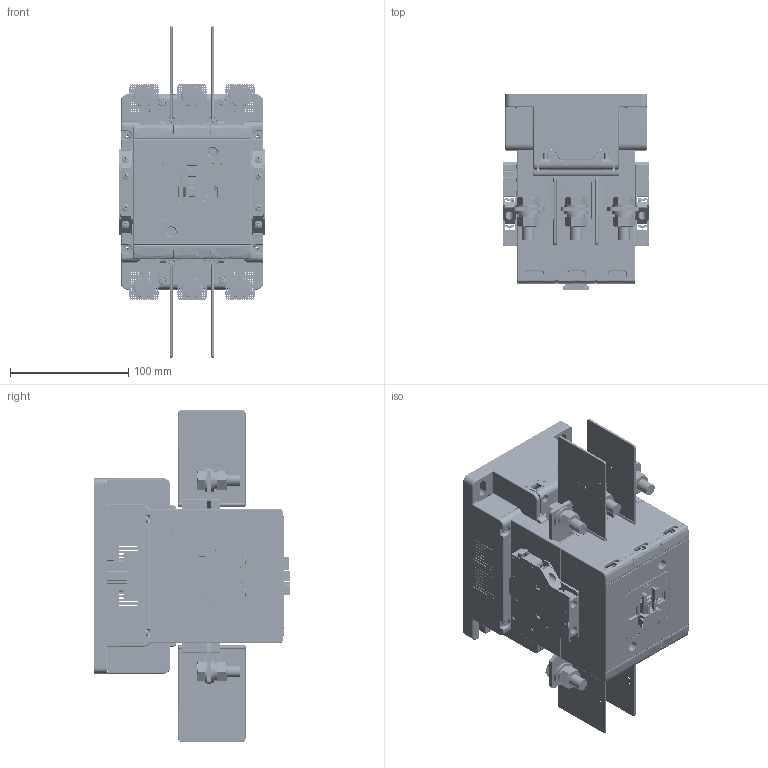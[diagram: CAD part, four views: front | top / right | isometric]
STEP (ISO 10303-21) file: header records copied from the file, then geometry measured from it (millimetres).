
FILE_DESCRIPTION((''),'2;1');
FILE_NAME('2TZD_400_6025_SW0003','2022-04-12T',('wangchen1'),(''),'PRO/ENGINEER BY PARAMETRIC TECHNOLOGY CORPORATION, 2017170','PRO/ENGINEER BY PARAMETRIC TECHNOLOGY CORPORATION, 2017170','');
FILE_SCHEMA(('CONFIG_CONTROL_DESIGN'));
Products named in the file (1): 2TZD_400_6025_SW0003
Bounding box: 124.4 x 166.2 x 281 mm (x, y, z)
Surface area: 511086 mm2 (no closed solid volume)
Topology: 0 solids, 425 shells, 4546 faces, 32176 edges, 27706 vertices
Faces by surface type: plane 3416, cylinder 769, cone 139, torus 121, sphere 56, bspline 39, extrusion 6
Entity records: 331532 total; most frequent: CARTESIAN_POINT 81876, DIRECTION 42244, ORIENTED_EDGE 41666, EDGE_CURVE 32172, VERTEX_POINT 27706, VECTOR 25868, LINE 25862, AXIS2_PLACEMENT_3D 8188
